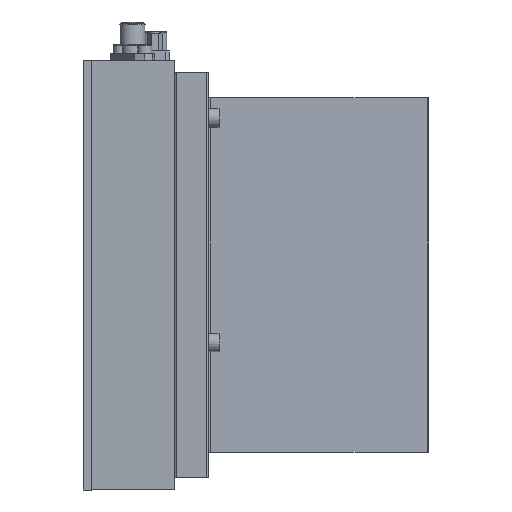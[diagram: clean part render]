
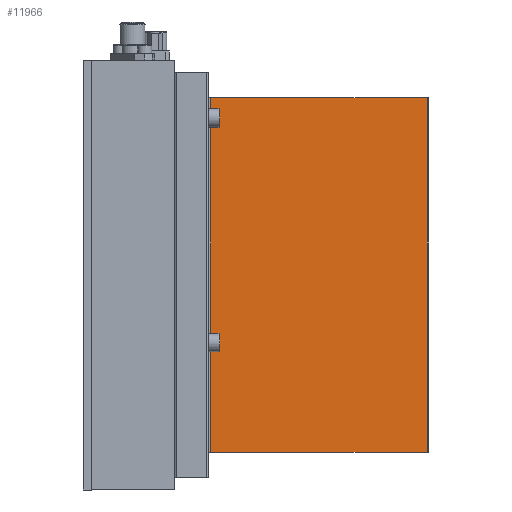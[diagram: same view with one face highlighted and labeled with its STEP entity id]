
A CAD part, left-side view. The second image highlights one B-rep face of the part: STEP entity #11966.
In plain terms, the highlighted planar face has unit normal (-1, -0.005, 0) as drawn and (-1, 0.005, 0) by its records, which use the part's own axes.
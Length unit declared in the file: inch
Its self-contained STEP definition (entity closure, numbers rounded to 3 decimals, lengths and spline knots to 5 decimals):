
#9157=CARTESIAN_POINT('',(4.43631,12.36636,-0.25));
#9158=VERTEX_POINT('',#9157);
#9168=CARTESIAN_POINT('',(4.42469,10.23625,-0.25));
#9169=VERTEX_POINT('',#9168);
#9170=CARTESIAN_POINT('',(4.42469,10.23625,-0.25));
#9171=DIRECTION('',(0.005,1.,0.0));
#9172=VECTOR('',#9171,2.13015);
#9173=LINE('',#9170,#9172);
#9174=EDGE_CURVE('',#9169,#9158,#9173,.T.);
#10299=CARTESIAN_POINT('',(4.43631,12.36636,-3.738));
#10300=VERTEX_POINT('',#10299);
#10350=CARTESIAN_POINT('',(4.42469,10.23625,-3.738));
#10351=VERTEX_POINT('',#10350);
#10359=CARTESIAN_POINT('',(4.43631,12.36636,-3.738));
#10360=DIRECTION('',(-0.005,-1.,0.));
#10361=VECTOR('',#10360,2.13015);
#10362=LINE('',#10359,#10361);
#10363=EDGE_CURVE('',#10300,#10351,#10362,.T.);
#10381=CARTESIAN_POINT('',(4.43631,12.36636,-3.738));
#10382=DIRECTION('',(0.0,0.0,1.0));
#10383=VECTOR('',#10382,3.488);
#10384=LINE('',#10381,#10383);
#10385=EDGE_CURVE('',#10300,#9158,#10384,.T.);
#11950=CARTESIAN_POINT('',(4.42469,10.23625,-12.));
#11951=DIRECTION('',(-1.,0.005,0.0));
#11952=DIRECTION('',(0.0,0.0,1.0));
#11953=AXIS2_PLACEMENT_3D('',#11950,#11951,#11952);
#11954=PLANE('',#11953);
#11955=ORIENTED_EDGE('',*,*,#9174,.T.);
#11956=ORIENTED_EDGE('',*,*,#10385,.F.);
#11957=ORIENTED_EDGE('',*,*,#10363,.T.);
#11958=CARTESIAN_POINT('',(4.42469,10.23625,-3.738));
#11959=DIRECTION('',(0.0,0.0,1.0));
#11960=VECTOR('',#11959,3.488);
#11961=LINE('',#11958,#11960);
#11962=EDGE_CURVE('',#10351,#9169,#11961,.T.);
#11963=ORIENTED_EDGE('',*,*,#11962,.T.);
#11964=EDGE_LOOP('',(#11955,#11956,#11957,#11963));
#11965=FACE_OUTER_BOUND('',#11964,.T.);
#11966=ADVANCED_FACE('',(#11965),#11954,.T.);
